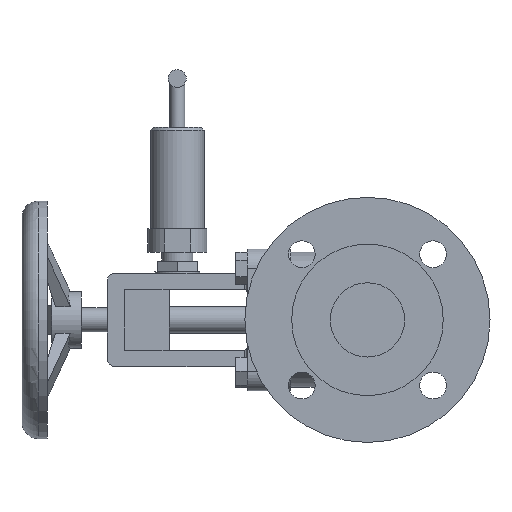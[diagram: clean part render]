
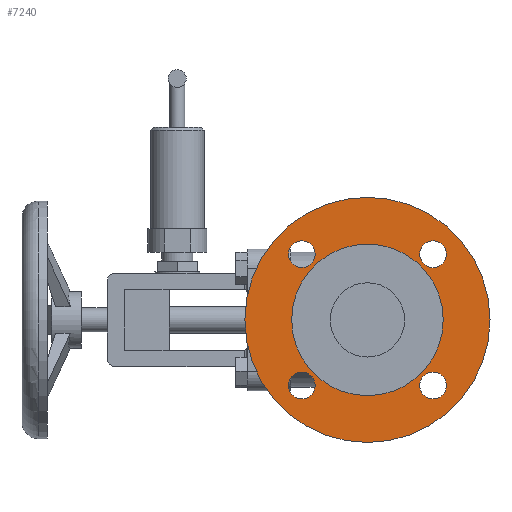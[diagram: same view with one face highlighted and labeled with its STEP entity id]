
A CAD part, left-side view. The second image highlights one B-rep face of the part: STEP entity #7240.
In plain terms, the highlighted planar face has unit normal (-1, 0, 0).
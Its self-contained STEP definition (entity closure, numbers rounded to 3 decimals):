
#347=PLANE('',#7719);
#405=FACE_BOUND('',#1365,.T.);
#406=FACE_BOUND('',#1366,.T.);
#407=FACE_BOUND('',#1367,.T.);
#408=FACE_BOUND('',#1368,.T.);
#409=FACE_BOUND('',#1369,.T.);
#939=FACE_OUTER_BOUND('',#1364,.T.);
#1364=EDGE_LOOP('',(#6358));
#1365=EDGE_LOOP('',(#6359));
#1366=EDGE_LOOP('',(#6360));
#1367=EDGE_LOOP('',(#6361));
#1368=EDGE_LOOP('',(#6362));
#1369=EDGE_LOOP('',(#6363));
#2833=CIRCLE('',#7649,82.5);
#2836=CIRCLE('',#7653,9.);
#2838=CIRCLE('',#7656,9.);
#2840=CIRCLE('',#7659,9.);
#2842=CIRCLE('',#7662,9.);
#2843=CIRCLE('',#7664,51.);
#3441=VERTEX_POINT('',#12436);
#3444=VERTEX_POINT('',#12444);
#3446=VERTEX_POINT('',#12450);
#3448=VERTEX_POINT('',#12456);
#3450=VERTEX_POINT('',#12462);
#3451=VERTEX_POINT('',#12466);
#4371=EDGE_CURVE('',#3441,#3441,#2833,.T.);
#4376=EDGE_CURVE('',#3444,#3444,#2836,.T.);
#4379=EDGE_CURVE('',#3446,#3446,#2838,.T.);
#4382=EDGE_CURVE('',#3448,#3448,#2840,.T.);
#4385=EDGE_CURVE('',#3450,#3450,#2842,.T.);
#4386=EDGE_CURVE('',#3451,#3451,#2843,.T.);
#6358=ORIENTED_EDGE('',*,*,#4371,.F.);
#6359=ORIENTED_EDGE('',*,*,#4379,.F.);
#6360=ORIENTED_EDGE('',*,*,#4382,.F.);
#6361=ORIENTED_EDGE('',*,*,#4385,.F.);
#6362=ORIENTED_EDGE('',*,*,#4376,.F.);
#6363=ORIENTED_EDGE('',*,*,#4386,.F.);
#7240=ADVANCED_FACE('',(#939,#405,#406,#407,#408,#409),#347,.F.);
#7649=AXIS2_PLACEMENT_3D('',#12437,#9068,#9069);
#7653=AXIS2_PLACEMENT_3D('',#12446,#9078,#9079);
#7656=AXIS2_PLACEMENT_3D('',#12452,#9085,#9086);
#7659=AXIS2_PLACEMENT_3D('',#12458,#9092,#9093);
#7662=AXIS2_PLACEMENT_3D('',#12464,#9099,#9100);
#7664=AXIS2_PLACEMENT_3D('',#12467,#9103,#9104);
#7719=AXIS2_PLACEMENT_3D('',#12630,#9280,#9281);
#9068=DIRECTION('center_axis',(1.,0.,0.));
#9069=DIRECTION('ref_axis',(0.,0.,-1.));
#9078=DIRECTION('center_axis',(-1.,0.,0.));
#9079=DIRECTION('ref_axis',(0.,0.,-1.));
#9085=DIRECTION('center_axis',(-1.,0.,0.));
#9086=DIRECTION('ref_axis',(0.,0.,-1.));
#9092=DIRECTION('center_axis',(-1.,0.,0.));
#9093=DIRECTION('ref_axis',(0.,0.,-1.));
#9099=DIRECTION('center_axis',(-1.,0.,0.));
#9100=DIRECTION('ref_axis',(0.,0.,-1.));
#9103=DIRECTION('center_axis',(-1.,0.,0.));
#9104=DIRECTION('ref_axis',(0.,1.,0.));
#9280=DIRECTION('center_axis',(1.,0.,0.));
#9281=DIRECTION('ref_axis',(0.,0.,-1.));
#12436=CARTESIAN_POINT('',(-124.742,-56.226,39.5));
#12437=CARTESIAN_POINT('Origin',(-124.742,-56.226,-43.));
#12444=CARTESIAN_POINT('',(-124.742,-12.032,-78.194));
#12446=CARTESIAN_POINT('Origin',(-124.742,-12.032,-87.194));
#12450=CARTESIAN_POINT('',(-124.742,-100.421,-78.194));
#12452=CARTESIAN_POINT('Origin',(-124.742,-100.421,-87.194));
#12456=CARTESIAN_POINT('',(-124.742,-100.421,10.194));
#12458=CARTESIAN_POINT('Origin',(-124.742,-100.421,1.194));
#12462=CARTESIAN_POINT('',(-124.742,-12.032,10.194));
#12464=CARTESIAN_POINT('Origin',(-124.742,-12.032,1.194));
#12466=CARTESIAN_POINT('',(-124.742,-107.226,-43.));
#12467=CARTESIAN_POINT('Origin',(-124.742,-56.226,-43.));
#12630=CARTESIAN_POINT('Origin',(-124.742,10.524,-43.));
